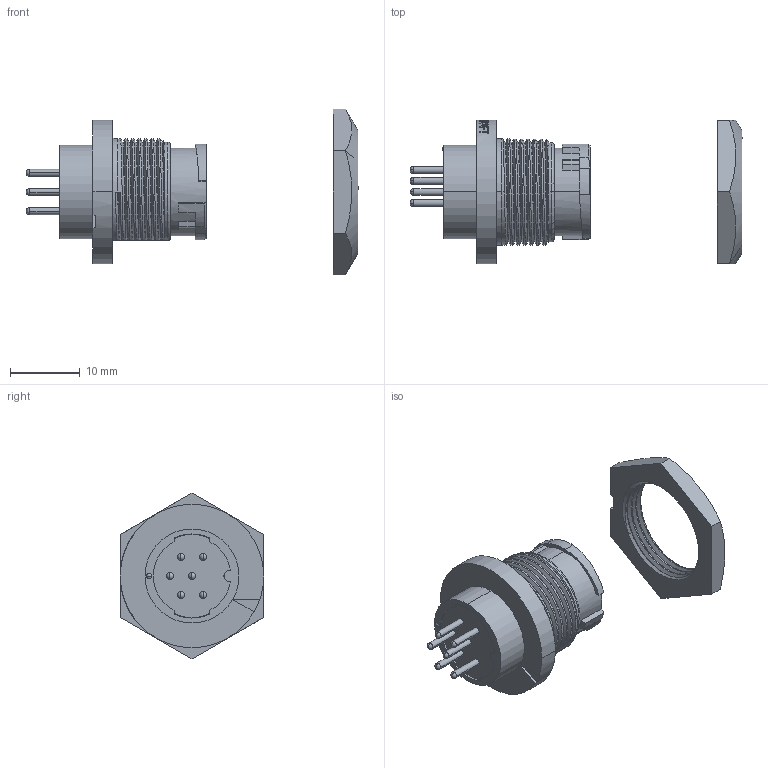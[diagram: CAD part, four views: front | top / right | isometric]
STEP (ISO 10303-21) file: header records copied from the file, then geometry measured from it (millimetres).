
FILE_DESCRIPTION (( 'STEP AP214' ), '1' );
FILE_NAME ('EN3P6FPX.STEP', '2014-08-01T18:21:31', ( '' ), ( '' ), 'SwSTEP 2.0', 'SolidWorks 2014', '' );
FILE_SCHEMA (( 'AUTOMOTIVE_DESIGN' ));
Length unit declared in the file: inch
Products named in the file (1): EN3P6FPX
Bounding box: 47.73 x 20.64 x 23.83 mm (x, y, z)
Volume: 3907.2 mm3; surface area: 3260.5 mm2
Topology: 2 solids, 2 shells, 425 faces, 1156 edges, 744 vertices
Faces by surface type: plane 127, bspline 127, cylinder 90, cone 37, torus 24, sphere 20
Entity records: 29091 total; most frequent: CARTESIAN_POINT 19612, ORIENTED_EDGE 2258, DIRECTION 1590, EDGE_CURVE 1129, VERTEX_POINT 739, AXIS2_PLACEMENT_3D 624, EDGE_LOOP 458, ADVANCED_FACE 425
